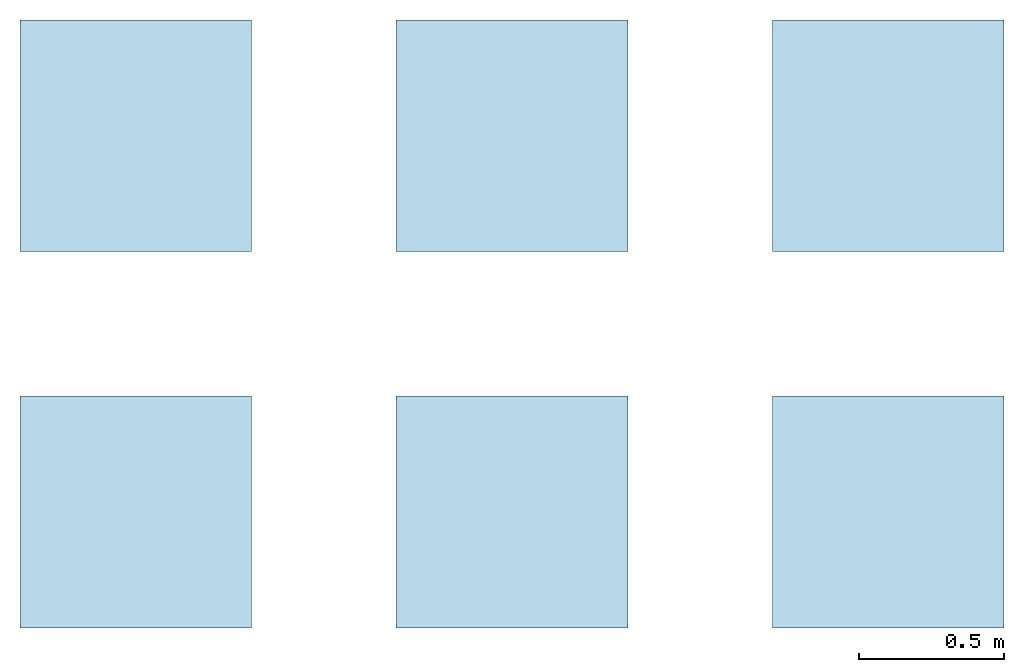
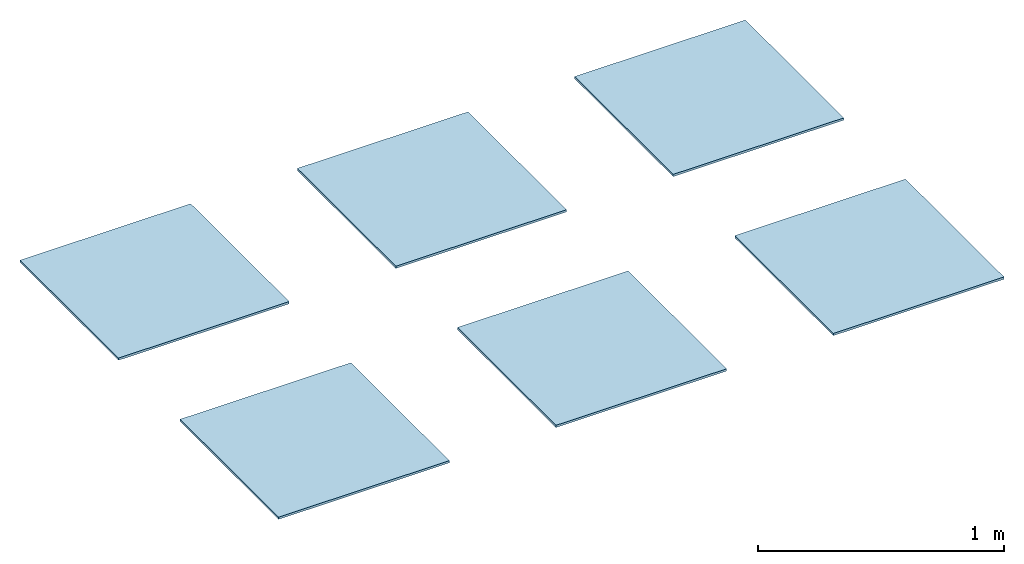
# One storey: 6 slabs.
"""IFC2X3 building model written with IfcOpenShell, lengths in metres."""

import ifcopenshell
import ifcopenshell.guid

model = None  # the IFC model being written
_history = None  # IfcOwnerHistory: only IFC2X3 demands one
_inside = {}  # id of a spatial element -> (the spatial element, [elements in it])
_under = {}  # id of a project, library or spatial element -> (it, [spatial elements below it])
_declared = {}  # id of a project -> (the project, [libraries it declares])
_typed = {}  # id of a type object -> (the type object, [elements of that type])
_made_of = {}  # id of a material, layer set ... -> (it, [elements and type objects made of it])


def new_model(schema):
    """Start an empty IFC model of exactly this schema.

    Asked for "IFC4X3", IfcOpenShell would pick the latest addendum, in which some entities
    have other attributes; the version numbers below select the first issue.
    IFC2X3 requires an IfcOwnerHistory on every rooted entity: one is made here for all.
    """
    global model, _history
    if schema == "IFC4X3":
        model = ifcopenshell.file(schema_version=(4, 3, 0, 0))
    else:
        model = ifcopenshell.file(schema=schema)
    _inside.clear()
    _under.clear()
    _declared.clear()
    _typed.clear()
    _made_of.clear()
    _history = None
    if model.schema == "IFC2X3":
        org = make("IfcOrganization", Name="unknown")
        user = make(
            "IfcPersonAndOrganization",
            ThePerson=make("IfcPerson", FamilyName="unknown"),
            TheOrganization=org,
        )
        app = make(
            "IfcApplication",
            ApplicationDeveloper=org,
            Version="unknown",
            ApplicationFullName="unknown",
            ApplicationIdentifier="unknown",
        )
        _history = make(
            "IfcOwnerHistory",
            OwningUser=user,
            OwningApplication=app,
            ChangeAction="ADDED",
            CreationDate=0,
        )
    return model


def make(cls, **values):
    """One entity of the class cls with the attributes given. An attribute that is None is left unset."""
    return model.create_entity(
        cls, **{name: value for name, value in values.items() if value is not None}
    )


def entity(cls, *values):
    """Any entity or typed value of the class cls, its attributes in the order of the schema. None: left unset."""
    e = model.create_entity(cls)
    for i, value in enumerate(values):
        if value is not None:
            e[i] = value
    return e


def rooted(cls, **values):
    """An entity with a GlobalId (a new one), such as an element, a storey or a relation."""
    return make(cls, GlobalId=ifcopenshell.guid.new(), OwnerHistory=_history, **values)


def si_unit(unit_type, name, prefix=None):
    """IfcSIUnit, for example si_unit("LENGTHUNIT", "METRE", prefix="MILLI")."""
    return make("IfcSIUnit", UnitType=unit_type, Prefix=prefix, Name=name)


def converted_unit(unit_type, name, factor, base, dimensions=None, offset=None):
    """IfcConversionBasedUnit, such as the inch: factor (a typed value) times the base unit."""
    return make(
        "IfcConversionBasedUnit"
        if offset is None
        else "IfcConversionBasedUnitWithOffset",
        ConversionOffset=offset,
        Dimensions=None
        if dimensions is None
        else entity("IfcDimensionalExponents", *dimensions),
        UnitType=unit_type,
        Name=name,
        ConversionFactor=make(
            "IfcMeasureWithUnit", ValueComponent=factor, UnitComponent=base
        ),
    )


def derived_unit(unit_type, elements):
    """IfcDerivedUnit: a product of units, each with its exponent."""
    return make(
        "IfcDerivedUnit",
        Elements=[
            make("IfcDerivedUnitElement", Unit=unit, Exponent=power)
            for unit, power in elements
        ],
        UnitType=unit_type,
    )


def assignment(units):
    """IfcUnitAssignment: the units of a project."""
    return None if units is None else make("IfcUnitAssignment", Units=units)


def point(xyz):
    """IfcCartesianPoint."""
    return None if xyz is None else make("IfcCartesianPoint", Coordinates=xyz)


def direction(xyz):
    """IfcDirection."""
    return None if xyz is None else make("IfcDirection", DirectionRatios=xyz)


def frame(location, z_axis=None, x_axis=None):
    """IfcAxis2Placement3D, a coordinate frame: its origin and axes. An axis left out is left unset."""
    return make(
        "IfcAxis2Placement3D",
        Location=point(location),
        Axis=direction(z_axis),
        RefDirection=direction(x_axis),
    )


def frame_2d(location, x_axis=None):
    """IfcAxis2Placement2D, a coordinate frame in the plane: its origin and x axis."""
    return make(
        "IfcAxis2Placement2D", Location=point(location), RefDirection=direction(x_axis)
    )


def origin():
    """The frame at (0, 0, 0) with its axes left unset."""
    return frame((0.0, 0.0, 0.0))


def origin_2d_with_axis():
    """The frame at (0, 0) in the plane with the x axis (1, 0) written out."""
    return frame_2d((0.0, 0.0), x_axis=(1.0, 0.0))


def place(relative_to, where):
    """IfcLocalPlacement: puts the frame where relative to a parent placement (None: the world)."""
    return make(
        "IfcLocalPlacement", PlacementRelTo=relative_to, RelativePlacement=where
    )


def context(
    kind, dimensions, precision=None, world=None, true_north=None, identifier=None
):
    """IfcGeometricRepresentationContext, for example the 3D "Model" context."""
    return make(
        "IfcGeometricRepresentationContext",
        ContextIdentifier=identifier,
        ContextType=kind,
        CoordinateSpaceDimension=dimensions,
        Precision=precision,
        WorldCoordinateSystem=world,
        TrueNorth=true_north,
    )


def subcontext(parent, identifier, kind, view, scale=None):
    """IfcGeometricRepresentationSubContext, for example "Body" below "Model"."""
    return make(
        "IfcGeometricRepresentationSubContext",
        ContextIdentifier=identifier,
        ContextType=kind,
        ParentContext=parent,
        TargetScale=scale,
        TargetView=view,
    )


def project(units=None, contexts=None):
    """IfcProject with its units and contexts."""
    return rooted(
        "IfcProject",
        Name="project",
        RepresentationContexts=contexts,
        UnitsInContext=assignment(units),
    )


def spatial(cls, under=None, at=None, **own):
    """A site, building, storey or space (cls), placed at a placement, below another one or the project."""
    s = rooted(cls, ObjectPlacement=at, **own)
    if under is not None:
        _under.setdefault(under.id(), (under, []))[1].append(s)
    return s


def profile(cls, at=None, kind="AREA", **sizes):
    """A parametric profile (cls). Its sizes go by their IFC names, for example OverallWidth=200.0."""
    return make(cls, ProfileType=kind, Position=at, **sizes)


def rectangle(**sizes):
    """IfcRectangleProfileDef."""
    return profile("IfcRectangleProfileDef", **sizes)


def extrude(swept, where, along, depth):
    """IfcExtrudedAreaSolid: the profile swept, set in the frame where, extruded along a direction by depth."""
    return make(
        "IfcExtrudedAreaSolid",
        SweptArea=swept,
        Position=where,
        ExtrudedDirection=direction(along),
        Depth=depth,
    )


def shape(context_of_items, identifier, shape_type, items):
    """IfcShapeRepresentation: the items that make up one representation, for example the "Body"."""
    return make(
        "IfcShapeRepresentation",
        ContextOfItems=context_of_items,
        RepresentationIdentifier=identifier,
        RepresentationType=shape_type,
        Items=items,
    )


def material(Name=None, Category=None):
    """IfcMaterial."""
    return make("IfcMaterial", Name=Name, Category=Category)


def layer(
    of_material, thickness, ventilated=None, Name=None, Category=None, Priority=None
):
    """IfcMaterialLayer: one layer of a wall or slab, of a material (None: an air gap)."""
    return make(
        "IfcMaterialLayer",
        Material=of_material,
        LayerThickness=thickness,
        IsVentilated=ventilated,
        Name=Name,
        Category=Category,
        Priority=Priority,
    )


def layer_set(layers, Name=None):
    """IfcMaterialLayerSet."""
    return make("IfcMaterialLayerSet", MaterialLayers=layers, LayerSetName=Name)


def layer_usage(for_layer_set, set_direction, sense, offset, extent=None):
    """IfcMaterialLayerSetUsage: how a layer set lies in its element."""
    return make(
        "IfcMaterialLayerSetUsage",
        ForLayerSet=for_layer_set,
        LayerSetDirection=set_direction,
        DirectionSense=sense,
        OffsetFromReferenceLine=offset,
        ReferenceExtent=extent,
    )


def made_of(thing, what):
    """Note that an element or type object is made of a material, layer set ...; save() writes the relation."""
    if what is not None:
        _made_of.setdefault(what.id(), (what, []))[1].append(thing)
    return thing


def element(
    cls,
    number,
    at=None,
    inside=None,
    cuts=None,
    type_object=None,
    material=None,
    context=None,
    identifier="Body",
    shape_type=None,
    held_by="IfcProductDefinitionShape",
    body=None,
    shapes=None,
    **own,
):
    """One element of the class cls, such as IfcWall. Its Tag is "e" and its number.

    at: its placement. inside: the storey or other place that contains it. cuts: it is an
    opening in that element (IfcRelVoidsElement). A single representation is given by context,
    identifier, shape_type and body (its items); several are given by shapes. held_by: the class
    of the entity that holds the representations. save() writes the other relations.
    """
    e = rooted(cls, Tag="e%d" % number, ObjectPlacement=at, **own)
    if body is not None:
        shapes = [shape(context, identifier, shape_type, body)]
    if shapes is not None:
        e.Representation = make(held_by, Representations=shapes)
    if inside is not None:
        _inside.setdefault(inside.id(), (inside, []))[1].append(e)
    if cuts is not None:
        rooted(
            "IfcRelVoidsElement", RelatingBuildingElement=cuts, RelatedOpeningElement=e
        )
    if type_object is not None:
        _typed.setdefault(type_object.id(), (type_object, []))[1].append(e)
    return made_of(e, material)


def aggregate(whole, parts):
    """IfcRelAggregates: a whole, such as a stair, and the parts it consists of."""
    return rooted("IfcRelAggregates", RelatingObject=whole, RelatedObjects=parts)


def save(model, path):
    """Write the relations noted so far, then the file.

    IfcRelAggregates (storeys below a building ...), IfcRelContainedInSpatialStructure (elements
    in a storey), IfcRelDefinesByType, IfcRelAssociatesMaterial and IfcRelDeclares: one each for
    every whole, place, type object, material and project.
    """
    for whole, parts in _under.values():
        aggregate(whole, parts)
    for where, things in _inside.values():
        rooted(
            "IfcRelContainedInSpatialStructure",
            RelatedElements=things,
            RelatingStructure=where,
        )
    for kind, things in _typed.values():
        rooted("IfcRelDefinesByType", RelatedObjects=things, RelatingType=kind)
    for what, things in _made_of.values():
        rooted("IfcRelAssociatesMaterial", RelatedObjects=things, RelatingMaterial=what)
    for by, libraries in _declared.values():
        rooted("IfcRelDeclares", RelatingContext=by, RelatedDefinitions=libraries)
    model.write(path)


model = new_model("IFC2X3")

# Units and contexts
model_context = context("Model", 3, precision=1e-05, world=origin(), true_north=direction((6.12303176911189e-17, 1.0)))
body_context = subcontext(model_context, "Body", "Model", "MODEL_VIEW")
ifc_project = project(units=[si_unit("LENGTHUNIT", "METRE"), si_unit("AREAUNIT", "SQUARE_METRE"), si_unit("VOLUMEUNIT", "CUBIC_METRE"), converted_unit("PLANEANGLEUNIT", "DEGREE", entity("IfcRatioMeasure", 0.0174532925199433), si_unit("PLANEANGLEUNIT", "RADIAN"), dimensions=[0, 0, 0, 0, 0, 0, 0]), si_unit("MASSUNIT", "GRAM", prefix="KILO"), si_unit("TIMEUNIT", "SECOND"), si_unit("FREQUENCYUNIT", "HERTZ"), si_unit("THERMODYNAMICTEMPERATUREUNIT", "DEGREE_CELSIUS"), derived_unit("THERMALTRANSMITTANCEUNIT", [(si_unit("MASSUNIT", "GRAM", prefix="KILO"), 1), (si_unit("THERMODYNAMICTEMPERATUREUNIT", "KELVIN"), -1), (si_unit("TIMEUNIT", "SECOND"), -3)]), derived_unit("VOLUMETRICFLOWRATEUNIT", [(si_unit("LENGTHUNIT", "METRE"), 3), (si_unit("TIMEUNIT", "SECOND"), -1)]), si_unit("ELECTRICCURRENTUNIT", "AMPERE"), si_unit("ELECTRICVOLTAGEUNIT", "VOLT"), si_unit("POWERUNIT", "WATT"), si_unit("FORCEUNIT", "NEWTON", prefix="KILO"), si_unit("ILLUMINANCEUNIT", "LUX"), si_unit("LUMINOUSFLUXUNIT", "LUMEN"), si_unit("LUMINOUSINTENSITYUNIT", "CANDELA"), derived_unit("USERDEFINED", [(si_unit("MASSUNIT", "GRAM", prefix="KILO"), -1), (si_unit("LENGTHUNIT", "METRE"), -2), (si_unit("TIMEUNIT", "SECOND"), 3), (si_unit("LUMINOUSFLUXUNIT", "LUMEN"), 1)]), derived_unit("LINEARVELOCITYUNIT", [(si_unit("LENGTHUNIT", "METRE"), 1), (si_unit("TIMEUNIT", "SECOND"), -1)]), si_unit("PRESSUREUNIT", "PASCAL"), derived_unit("USERDEFINED", [(si_unit("LENGTHUNIT", "METRE"), -2), (si_unit("MASSUNIT", "GRAM", prefix="KILO"), 1), (si_unit("TIMEUNIT", "SECOND"), -2)])], contexts=[model_context])

# Site, building, storey
site_placement = place(None, origin())
site = spatial("IfcSite", under=ifc_project, at=site_placement, Name="Default", CompositionType="ELEMENT")
building_placement = place(site_placement, origin())
building = spatial("IfcBuilding", under=site, at=building_placement, CompositionType="ELEMENT")
storey_placement = place(building_placement, origin())
storey = spatial("IfcBuildingStorey", under=building, at=storey_placement, Name="LAVERTON FLOOR TILES", CompositionType="ELEMENT", Elevation=0.0)

# Slabs
ifc_material_1 = material(Name="VIVES LAVERTON-R ARENA 80x80")
ifc_layer_1 = layer(ifc_material_1, 0.011)
ifc_layer_set_1 = layer_set([ifc_layer_1], Name="Suelo:VIVES LAVERTON-R ARENA 80x80")
ifc_layer_usage_1 = layer_usage(ifc_layer_set_1, "AXIS3", "POSITIVE", 0.0)
slab_1_placement = place(storey_placement, origin())
element("IfcSlab", 1, at=slab_1_placement, inside=storey, material=ifc_layer_usage_1, Name="Suelo:VIVES LAVERTON-R ARENA 80x80", ObjectType="Suelo:VIVES LAVERTON-R ARENA 80x80", PredefinedType="FLOOR", context=body_context, shape_type="SweptSolid", body=[
    extrude(rectangle(XDim=0.8, YDim=0.8, at=origin_2d_with_axis()), frame((-1.79767402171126, -3.51495505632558, 0.0), z_axis=(0.0, 0.0, -1.0), x_axis=(0.0, 1.0, 0.0)), (0.0, 0.0, 1.0), 0.011),
])
ifc_material_2 = material(Name="VIVES LAVERTON-R NIEVE 80x80")
ifc_layer_2 = layer(ifc_material_2, 0.011)
ifc_layer_set_2 = layer_set([ifc_layer_2], Name="Suelo:VIVES LAVERTON-R NIEVE 80x80")
ifc_layer_usage_2 = layer_usage(ifc_layer_set_2, "AXIS3", "POSITIVE", 0.0)
slab_2_placement = place(storey_placement, origin())
element("IfcSlab", 2, at=slab_2_placement, inside=storey, material=ifc_layer_usage_2, Name="Suelo:VIVES LAVERTON-R NIEVE 80x80", ObjectType="Suelo:VIVES LAVERTON-R NIEVE 80x80", PredefinedType="FLOOR", context=body_context, shape_type="SweptSolid", body=[
    extrude(rectangle(XDim=0.8, YDim=0.8, at=origin_2d_with_axis()), frame((-0.497674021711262, -3.51495505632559, 0.0), z_axis=(0.0, 0.0, -1.0), x_axis=(0.0, 1.0, 0.0)), (0.0, 0.0, 1.0), 0.011),
])
ifc_material_3 = material(Name="VIVES LAVERTON-R BEIGE 80x80")
ifc_layer_3 = layer(ifc_material_3, 0.011)
ifc_layer_set_3 = layer_set([ifc_layer_3], Name="Suelo:VIVES LAVERTON-R BEIGE 80x80")
ifc_layer_usage_3 = layer_usage(ifc_layer_set_3, "AXIS3", "POSITIVE", 0.0)
slab_3_placement = place(storey_placement, origin())
element("IfcSlab", 3, at=slab_3_placement, inside=storey, material=ifc_layer_usage_3, Name="Suelo:VIVES LAVERTON-R BEIGE 80x80", ObjectType="Suelo:VIVES LAVERTON-R BEIGE 80x80", PredefinedType="FLOOR", context=body_context, shape_type="SweptSolid", body=[
    extrude(rectangle(XDim=0.8, YDim=0.8, at=origin_2d_with_axis()), frame((0.802325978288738, -3.51495505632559, 0.0), z_axis=(0.0, 0.0, -1.0), x_axis=(0.0, 1.0, 0.0)), (0.0, 0.0, 1.0), 0.011),
])
ifc_material_4 = material(Name="VIVES LAVERTON-R GRIS 80x80")
ifc_layer_4 = layer(ifc_material_4, 0.011)
ifc_layer_set_4 = layer_set([ifc_layer_4], Name="Suelo:VIVES LAVERTON-R GRIS 80x80")
ifc_layer_usage_4 = layer_usage(ifc_layer_set_4, "AXIS3", "POSITIVE", 0.0)
slab_4_placement = place(storey_placement, origin())
element("IfcSlab", 4, at=slab_4_placement, inside=storey, material=ifc_layer_usage_4, Name="Suelo:VIVES LAVERTON-R GRIS 80x80", ObjectType="Suelo:VIVES LAVERTON-R GRIS 80x80", PredefinedType="FLOOR", context=body_context, shape_type="SweptSolid", body=[
    extrude(rectangle(XDim=0.8, YDim=0.8, at=origin_2d_with_axis()), frame((-1.79767402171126, -4.81495505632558, 0.0), z_axis=(0.0, 0.0, -1.0), x_axis=(0.0, 1.0, 0.0)), (0.0, 0.0, 1.0), 0.011),
])
ifc_material_5 = material(Name="VIVES LAVERTON-R NATURAL 80x80")
ifc_layer_5 = layer(ifc_material_5, 0.011)
ifc_layer_set_5 = layer_set([ifc_layer_5], Name="Suelo:VIVES LAVERTON-R NATURAL 80x80")
ifc_layer_usage_5 = layer_usage(ifc_layer_set_5, "AXIS3", "POSITIVE", 0.0)
slab_5_placement = place(storey_placement, origin())
element("IfcSlab", 5, at=slab_5_placement, inside=storey, material=ifc_layer_usage_5, Name="Suelo:VIVES LAVERTON-R NATURAL 80x80", ObjectType="Suelo:VIVES LAVERTON-R NATURAL 80x80", PredefinedType="FLOOR", context=body_context, shape_type="SweptSolid", body=[
    extrude(rectangle(XDim=0.8, YDim=0.8, at=origin_2d_with_axis()), frame((-0.497674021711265, -4.81495505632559, 0.0), z_axis=(0.0, 0.0, -1.0), x_axis=(0.0, 1.0, 0.0)), (0.0, 0.0, 1.0), 0.011),
])
ifc_material_6 = material(Name="VIVES LAVERTON-R GRAFITO 80x80")
ifc_layer_6 = layer(ifc_material_6, 0.011)
ifc_layer_set_6 = layer_set([ifc_layer_6], Name="Suelo:VIVES LAVERTON-R GRAFITO 80x80")
ifc_layer_usage_6 = layer_usage(ifc_layer_set_6, "AXIS3", "POSITIVE", 0.0)
slab_6_placement = place(storey_placement, origin())
element("IfcSlab", 6, at=slab_6_placement, inside=storey, material=ifc_layer_usage_6, Name="Suelo:VIVES LAVERTON-R GRAFITO 80x80", ObjectType="Suelo:VIVES LAVERTON-R GRAFITO 80x80", PredefinedType="FLOOR", context=body_context, shape_type="SweptSolid", body=[
    extrude(rectangle(XDim=0.8, YDim=0.8, at=origin_2d_with_axis()), frame((0.802325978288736, -4.81495505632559, 0.0), z_axis=(0.0, 0.0, -1.0), x_axis=(0.0, 1.0, 0.0)), (0.0, 0.0, 1.0), 0.011),
])

save(model, "model.ifc")
